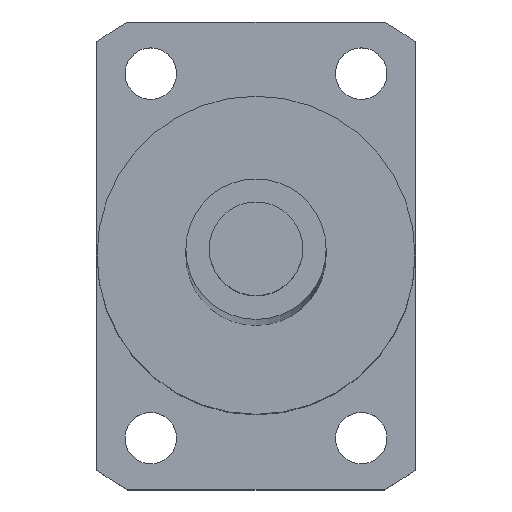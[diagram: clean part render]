
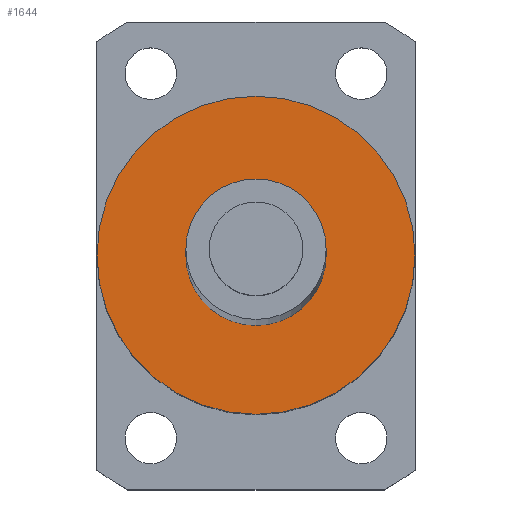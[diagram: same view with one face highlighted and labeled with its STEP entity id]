
A CAD part, top view. The second image highlights one B-rep face of the part: STEP entity #1644.
In plain terms, the highlighted planar face has unit normal (0, 0, 1).
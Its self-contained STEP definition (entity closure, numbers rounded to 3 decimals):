
#512=CARTESIAN_POINT('',(0.,0.,482.5));
#513=DIRECTION('',(0.,0.,1.));
#514=DIRECTION('',(1.,0.,0.));
#515=AXIS2_PLACEMENT_3D('',#512,#513,#514);
#517=CARTESIAN_POINT('',(0.,0.,482.5));
#518=DIRECTION('',(0.,0.,1.));
#519=DIRECTION('',(-1.,0.,0.));
#520=AXIS2_PLACEMENT_3D('',#517,#518,#519);
#522=CARTESIAN_POINT('',(0.,0.,482.5));
#523=DIRECTION('',(0.,0.,1.));
#524=DIRECTION('',(1.,0.,0.));
#525=AXIS2_PLACEMENT_3D('',#522,#523,#524);
#527=CARTESIAN_POINT('',(0.,0.,482.5));
#528=DIRECTION('',(0.,0.,1.));
#529=DIRECTION('',(-1.,0.,0.));
#530=AXIS2_PLACEMENT_3D('',#527,#528,#529);
#757=CARTESIAN_POINT('',(17.,0.,482.5));
#758=CARTESIAN_POINT('',(-17.,0.,482.5));
#759=VERTEX_POINT('',#757);
#760=VERTEX_POINT('',#758);
#769=CARTESIAN_POINT('',(7.5,0.,482.5));
#770=CARTESIAN_POINT('',(-7.5,0.,482.5));
#771=VERTEX_POINT('',#769);
#772=VERTEX_POINT('',#770);
#1629=CARTESIAN_POINT('',(0.,0.,482.5));
#1630=DIRECTION('',(0.,0.,1.));
#1631=DIRECTION('',(1.,0.,0.));
#1632=AXIS2_PLACEMENT_3D('',#1629,#1630,#1631);
#1633=PLANE('',#1632);
#1634=ORIENTED_EDGE('',*,*,#1609,.F.);
#1635=ORIENTED_EDGE('',*,*,#1623,.F.);
#1636=EDGE_LOOP('',(#1634,#1635));
#1637=FACE_OUTER_BOUND('',#1636,.F.);
#1639=ORIENTED_EDGE('',*,*,#1638,.T.);
#1641=ORIENTED_EDGE('',*,*,#1640,.T.);
#1642=EDGE_LOOP('',(#1639,#1641));
#1643=FACE_BOUND('',#1642,.F.);
#1644=ADVANCED_FACE('',(#1637,#1643),#1633,.T.);
#516=CIRCLE('',#515,17.);
#521=CIRCLE('',#520,17.);
#526=CIRCLE('',#525,7.5);
#531=CIRCLE('',#530,7.5);
#1609=EDGE_CURVE('',#759,#760,#516,.T.);
#1623=EDGE_CURVE('',#760,#759,#521,.T.);
#1638=EDGE_CURVE('',#771,#772,#526,.T.);
#1640=EDGE_CURVE('',#772,#771,#531,.T.);
